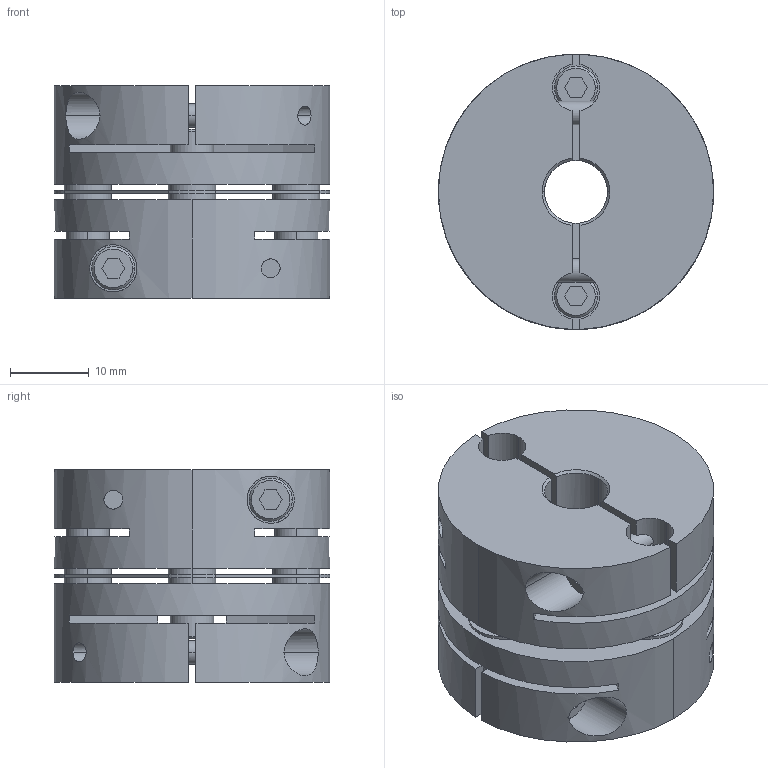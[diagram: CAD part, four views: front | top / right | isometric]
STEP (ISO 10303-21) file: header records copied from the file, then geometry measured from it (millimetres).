
FILE_DESCRIPTION((''),'2;1');
FILE_NAME('LAS-35C-8×11.stp','2011-08-10T16:35:41',(''),(''),'AutoCAD STEP 2000i','AutoCAD 2000i',', , ');
FILE_SCHEMA(('CONFIG_CONTROL_DESIGN'));
Length unit declared in the file: millimetre
Products named in the file (5): LAS-35C-8×8; 忣兜1; LA-3502-D08-1; LA-3502-D08; LAS35-ITA
Assembly tree (4 placements, depth 2):
  LAS-35C-8×8
    忣兜1
    LA-3502-D08-1
    LA-3502-D08
    LAS35-ITA
Bounding box: 35 x 35 x 27 mm (x, y, z)
Volume: 19943.4 mm3; surface area: 12113.5 mm2
Topology: 1 solids, 1 shells, 236 faces, 624 edges, 408 vertices
Faces by surface type: plane 112, cylinder 96, cone 28
Entity records: 8143 total; most frequent: CARTESIAN_POINT 1949, DIRECTION 1302, ORIENTED_EDGE 1248, EDGE_CURVE 624, AXIS2_PLACEMENT_3D 477, VERTEX_POINT 408, VECTOR 348, LINE 348
